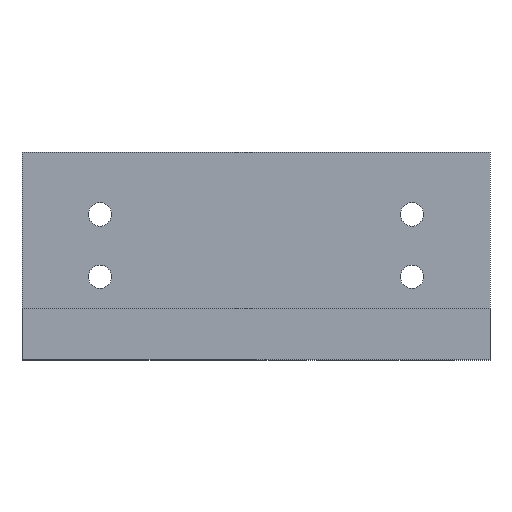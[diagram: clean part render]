
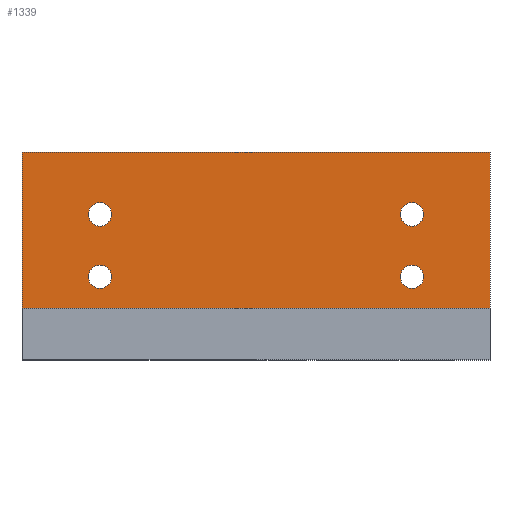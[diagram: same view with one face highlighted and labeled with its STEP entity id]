
A CAD part, front view. The second image highlights one B-rep face of the part: STEP entity #1339.
In plain terms, the highlighted planar face has unit normal (0, -1, 0).
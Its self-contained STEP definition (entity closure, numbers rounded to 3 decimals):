
#32 = PLANE('',#33);
#33 = AXIS2_PLACEMENT_3D('',#34,#35,#36);
#34 = CARTESIAN_POINT('',(0.,103.,10.));
#35 = DIRECTION('',(1.,0.,0.));
#36 = DIRECTION('',(0.,0.,-1.));
#141 = VERTEX_POINT('',#142);
#142 = CARTESIAN_POINT('',(0.,12.,40.));
#156 = PLANE('',#157);
#157 = AXIS2_PLACEMENT_3D('',#158,#159,#160);
#158 = CARTESIAN_POINT('',(0.,22.,40.));
#159 = DIRECTION('',(0.,0.,-1.));
#160 = DIRECTION('',(1.,0.,0.));
#168 = EDGE_CURVE('',#141,#169,#171,.T.);
#169 = VERTEX_POINT('',#170);
#170 = CARTESIAN_POINT('',(0.,12.,10.));
#171 = SURFACE_CURVE('',#172,(#176,#183),.PCURVE_S1.);
#172 = LINE('',#173,#174);
#173 = CARTESIAN_POINT('',(0.,12.,40.));
#174 = VECTOR('',#175,1.);
#175 = DIRECTION('',(0.,0.,-1.));
#176 = PCURVE('',#32,#177);
#177 = DEFINITIONAL_REPRESENTATION('',(#178),#182);
#178 = LINE('',#179,#180);
#179 = CARTESIAN_POINT('',(-30.,-91.));
#180 = VECTOR('',#181,1.);
#181 = DIRECTION('',(1.,0.));
#182 = ( GEOMETRIC_REPRESENTATION_CONTEXT(2) 
PARAMETRIC_REPRESENTATION_CONTEXT() REPRESENTATION_CONTEXT('2D SPACE',''
  ) );
#183 = PCURVE('',#184,#189);
#184 = PLANE('',#185);
#185 = AXIS2_PLACEMENT_3D('',#186,#187,#188);
#186 = CARTESIAN_POINT('',(0.,12.,40.));
#187 = DIRECTION('',(0.,-1.,0.));
#188 = DIRECTION('',(0.,0.,-1.));
#189 = DEFINITIONAL_REPRESENTATION('',(#190),#194);
#190 = LINE('',#191,#192);
#191 = CARTESIAN_POINT('',(0.,0.));
#192 = VECTOR('',#193,1.);
#193 = DIRECTION('',(1.,0.));
#194 = ( GEOMETRIC_REPRESENTATION_CONTEXT(2) 
PARAMETRIC_REPRESENTATION_CONTEXT() REPRESENTATION_CONTEXT('2D SPACE',''
  ) );
#212 = PLANE('',#213);
#213 = AXIS2_PLACEMENT_3D('',#214,#215,#216);
#214 = CARTESIAN_POINT('',(0.,103.,10.));
#215 = DIRECTION('',(0.,0.,-1.));
#216 = DIRECTION('',(1.,0.,0.));
#342 = PLANE('',#343);
#343 = AXIS2_PLACEMENT_3D('',#344,#345,#346);
#344 = CARTESIAN_POINT('',(90.,103.,10.));
#345 = DIRECTION('',(1.,0.,0.));
#346 = DIRECTION('',(0.,0.,-1.));
#1186 = CYLINDRICAL_SURFACE('',#1187,2.25);
#1187 = AXIS2_PLACEMENT_3D('',#1188,#1189,#1190);
#1188 = CARTESIAN_POINT('',(15.,23.,28.));
#1189 = DIRECTION('',(0.,-1.,0.));
#1190 = DIRECTION('',(0.,0.,-1.));
#1217 = CYLINDRICAL_SURFACE('',#1218,2.25);
#1218 = AXIS2_PLACEMENT_3D('',#1219,#1220,#1221);
#1219 = CARTESIAN_POINT('',(15.,23.,16.));
#1220 = DIRECTION('',(0.,-1.,0.));
#1221 = DIRECTION('',(0.,0.,-1.));
#1248 = CYLINDRICAL_SURFACE('',#1249,2.25);
#1249 = AXIS2_PLACEMENT_3D('',#1250,#1251,#1252);
#1250 = CARTESIAN_POINT('',(75.,23.,28.));
#1251 = DIRECTION('',(0.,-1.,0.));
#1252 = DIRECTION('',(0.,0.,-1.));
#1279 = CYLINDRICAL_SURFACE('',#1280,2.25);
#1280 = AXIS2_PLACEMENT_3D('',#1281,#1282,#1283);
#1281 = CARTESIAN_POINT('',(75.,23.,16.));
#1282 = DIRECTION('',(0.,-1.,0.));
#1283 = DIRECTION('',(0.,0.,-1.));
#1297 = VERTEX_POINT('',#1298);
#1298 = CARTESIAN_POINT('',(90.,12.,40.));
#1319 = EDGE_CURVE('',#141,#1297,#1320,.T.);
#1320 = SURFACE_CURVE('',#1321,(#1325,#1332),.PCURVE_S1.);
#1321 = LINE('',#1322,#1323);
#1322 = CARTESIAN_POINT('',(0.,12.,40.));
#1323 = VECTOR('',#1324,1.);
#1324 = DIRECTION('',(1.,0.,0.));
#1325 = PCURVE('',#156,#1326);
#1326 = DEFINITIONAL_REPRESENTATION('',(#1327),#1331);
#1327 = LINE('',#1328,#1329);
#1328 = CARTESIAN_POINT('',(0.,10.));
#1329 = VECTOR('',#1330,1.);
#1330 = DIRECTION('',(1.,0.));
#1331 = ( GEOMETRIC_REPRESENTATION_CONTEXT(2) 
PARAMETRIC_REPRESENTATION_CONTEXT() REPRESENTATION_CONTEXT('2D SPACE',''
  ) );
#1332 = PCURVE('',#184,#1333);
#1333 = DEFINITIONAL_REPRESENTATION('',(#1334),#1338);
#1334 = LINE('',#1335,#1336);
#1335 = CARTESIAN_POINT('',(0.,0.));
#1336 = VECTOR('',#1337,1.);
#1337 = DIRECTION('',(0.,1.));
#1338 = ( GEOMETRIC_REPRESENTATION_CONTEXT(2) 
PARAMETRIC_REPRESENTATION_CONTEXT() REPRESENTATION_CONTEXT('2D SPACE',''
  ) );
#1339 = ADVANCED_FACE('',(#1340,#1388,#1414,#1440,#1466),#184,.T.);
#1340 = FACE_BOUND('',#1341,.T.);
#1341 = EDGE_LOOP('',(#1342,#1343,#1344,#1367));
#1342 = ORIENTED_EDGE('',*,*,#1319,.F.);
#1343 = ORIENTED_EDGE('',*,*,#168,.T.);
#1344 = ORIENTED_EDGE('',*,*,#1345,.T.);
#1345 = EDGE_CURVE('',#169,#1346,#1348,.T.);
#1346 = VERTEX_POINT('',#1347);
#1347 = CARTESIAN_POINT('',(90.,12.,10.));
#1348 = SURFACE_CURVE('',#1349,(#1353,#1360),.PCURVE_S1.);
#1349 = LINE('',#1350,#1351);
#1350 = CARTESIAN_POINT('',(0.,12.,10.));
#1351 = VECTOR('',#1352,1.);
#1352 = DIRECTION('',(1.,0.,0.));
#1353 = PCURVE('',#184,#1354);
#1354 = DEFINITIONAL_REPRESENTATION('',(#1355),#1359);
#1355 = LINE('',#1356,#1357);
#1356 = CARTESIAN_POINT('',(30.,0.));
#1357 = VECTOR('',#1358,1.);
#1358 = DIRECTION('',(0.,1.));
#1359 = ( GEOMETRIC_REPRESENTATION_CONTEXT(2) 
PARAMETRIC_REPRESENTATION_CONTEXT() REPRESENTATION_CONTEXT('2D SPACE',''
  ) );
#1360 = PCURVE('',#212,#1361);
#1361 = DEFINITIONAL_REPRESENTATION('',(#1362),#1366);
#1362 = LINE('',#1363,#1364);
#1363 = CARTESIAN_POINT('',(0.,91.));
#1364 = VECTOR('',#1365,1.);
#1365 = DIRECTION('',(1.,0.));
#1366 = ( GEOMETRIC_REPRESENTATION_CONTEXT(2) 
PARAMETRIC_REPRESENTATION_CONTEXT() REPRESENTATION_CONTEXT('2D SPACE',''
  ) );
#1367 = ORIENTED_EDGE('',*,*,#1368,.F.);
#1368 = EDGE_CURVE('',#1297,#1346,#1369,.T.);
#1369 = SURFACE_CURVE('',#1370,(#1374,#1381),.PCURVE_S1.);
#1370 = LINE('',#1371,#1372);
#1371 = CARTESIAN_POINT('',(90.,12.,40.));
#1372 = VECTOR('',#1373,1.);
#1373 = DIRECTION('',(0.,0.,-1.));
#1374 = PCURVE('',#184,#1375);
#1375 = DEFINITIONAL_REPRESENTATION('',(#1376),#1380);
#1376 = LINE('',#1377,#1378);
#1377 = CARTESIAN_POINT('',(0.,90.));
#1378 = VECTOR('',#1379,1.);
#1379 = DIRECTION('',(1.,0.));
#1380 = ( GEOMETRIC_REPRESENTATION_CONTEXT(2) 
PARAMETRIC_REPRESENTATION_CONTEXT() REPRESENTATION_CONTEXT('2D SPACE',''
  ) );
#1381 = PCURVE('',#342,#1382);
#1382 = DEFINITIONAL_REPRESENTATION('',(#1383),#1387);
#1383 = LINE('',#1384,#1385);
#1384 = CARTESIAN_POINT('',(-30.,-91.));
#1385 = VECTOR('',#1386,1.);
#1386 = DIRECTION('',(1.,0.));
#1387 = ( GEOMETRIC_REPRESENTATION_CONTEXT(2) 
PARAMETRIC_REPRESENTATION_CONTEXT() REPRESENTATION_CONTEXT('2D SPACE',''
  ) );
#1388 = FACE_BOUND('',#1389,.T.);
#1389 = EDGE_LOOP('',(#1390));
#1390 = ORIENTED_EDGE('',*,*,#1391,.F.);
#1391 = EDGE_CURVE('',#1392,#1392,#1394,.T.);
#1392 = VERTEX_POINT('',#1393);
#1393 = CARTESIAN_POINT('',(15.,12.,25.75));
#1394 = SURFACE_CURVE('',#1395,(#1400,#1407),.PCURVE_S1.);
#1395 = CIRCLE('',#1396,2.25);
#1396 = AXIS2_PLACEMENT_3D('',#1397,#1398,#1399);
#1397 = CARTESIAN_POINT('',(15.,12.,28.));
#1398 = DIRECTION('',(0.,-1.,0.));
#1399 = DIRECTION('',(0.,0.,-1.));
#1400 = PCURVE('',#184,#1401);
#1401 = DEFINITIONAL_REPRESENTATION('',(#1402),#1406);
#1402 = CIRCLE('',#1403,2.25);
#1403 = AXIS2_PLACEMENT_2D('',#1404,#1405);
#1404 = CARTESIAN_POINT('',(12.,15.));
#1405 = DIRECTION('',(1.,0.));
#1406 = ( GEOMETRIC_REPRESENTATION_CONTEXT(2) 
PARAMETRIC_REPRESENTATION_CONTEXT() REPRESENTATION_CONTEXT('2D SPACE',''
  ) );
#1407 = PCURVE('',#1186,#1408);
#1408 = DEFINITIONAL_REPRESENTATION('',(#1409),#1413);
#1409 = LINE('',#1410,#1411);
#1410 = CARTESIAN_POINT('',(0.,11.));
#1411 = VECTOR('',#1412,1.);
#1412 = DIRECTION('',(1.,0.));
#1413 = ( GEOMETRIC_REPRESENTATION_CONTEXT(2) 
PARAMETRIC_REPRESENTATION_CONTEXT() REPRESENTATION_CONTEXT('2D SPACE',''
  ) );
#1414 = FACE_BOUND('',#1415,.T.);
#1415 = EDGE_LOOP('',(#1416));
#1416 = ORIENTED_EDGE('',*,*,#1417,.F.);
#1417 = EDGE_CURVE('',#1418,#1418,#1420,.T.);
#1418 = VERTEX_POINT('',#1419);
#1419 = CARTESIAN_POINT('',(15.,12.,13.75));
#1420 = SURFACE_CURVE('',#1421,(#1426,#1433),.PCURVE_S1.);
#1421 = CIRCLE('',#1422,2.25);
#1422 = AXIS2_PLACEMENT_3D('',#1423,#1424,#1425);
#1423 = CARTESIAN_POINT('',(15.,12.,16.));
#1424 = DIRECTION('',(0.,-1.,0.));
#1425 = DIRECTION('',(0.,0.,-1.));
#1426 = PCURVE('',#184,#1427);
#1427 = DEFINITIONAL_REPRESENTATION('',(#1428),#1432);
#1428 = CIRCLE('',#1429,2.25);
#1429 = AXIS2_PLACEMENT_2D('',#1430,#1431);
#1430 = CARTESIAN_POINT('',(24.,15.));
#1431 = DIRECTION('',(1.,0.));
#1432 = ( GEOMETRIC_REPRESENTATION_CONTEXT(2) 
PARAMETRIC_REPRESENTATION_CONTEXT() REPRESENTATION_CONTEXT('2D SPACE',''
  ) );
#1433 = PCURVE('',#1217,#1434);
#1434 = DEFINITIONAL_REPRESENTATION('',(#1435),#1439);
#1435 = LINE('',#1436,#1437);
#1436 = CARTESIAN_POINT('',(0.,11.));
#1437 = VECTOR('',#1438,1.);
#1438 = DIRECTION('',(1.,0.));
#1439 = ( GEOMETRIC_REPRESENTATION_CONTEXT(2) 
PARAMETRIC_REPRESENTATION_CONTEXT() REPRESENTATION_CONTEXT('2D SPACE',''
  ) );
#1440 = FACE_BOUND('',#1441,.T.);
#1441 = EDGE_LOOP('',(#1442));
#1442 = ORIENTED_EDGE('',*,*,#1443,.F.);
#1443 = EDGE_CURVE('',#1444,#1444,#1446,.T.);
#1444 = VERTEX_POINT('',#1445);
#1445 = CARTESIAN_POINT('',(75.,12.,25.75));
#1446 = SURFACE_CURVE('',#1447,(#1452,#1459),.PCURVE_S1.);
#1447 = CIRCLE('',#1448,2.25);
#1448 = AXIS2_PLACEMENT_3D('',#1449,#1450,#1451);
#1449 = CARTESIAN_POINT('',(75.,12.,28.));
#1450 = DIRECTION('',(0.,-1.,0.));
#1451 = DIRECTION('',(0.,0.,-1.));
#1452 = PCURVE('',#184,#1453);
#1453 = DEFINITIONAL_REPRESENTATION('',(#1454),#1458);
#1454 = CIRCLE('',#1455,2.25);
#1455 = AXIS2_PLACEMENT_2D('',#1456,#1457);
#1456 = CARTESIAN_POINT('',(12.,75.));
#1457 = DIRECTION('',(1.,0.));
#1458 = ( GEOMETRIC_REPRESENTATION_CONTEXT(2) 
PARAMETRIC_REPRESENTATION_CONTEXT() REPRESENTATION_CONTEXT('2D SPACE',''
  ) );
#1459 = PCURVE('',#1248,#1460);
#1460 = DEFINITIONAL_REPRESENTATION('',(#1461),#1465);
#1461 = LINE('',#1462,#1463);
#1462 = CARTESIAN_POINT('',(0.,11.));
#1463 = VECTOR('',#1464,1.);
#1464 = DIRECTION('',(1.,0.));
#1465 = ( GEOMETRIC_REPRESENTATION_CONTEXT(2) 
PARAMETRIC_REPRESENTATION_CONTEXT() REPRESENTATION_CONTEXT('2D SPACE',''
  ) );
#1466 = FACE_BOUND('',#1467,.T.);
#1467 = EDGE_LOOP('',(#1468));
#1468 = ORIENTED_EDGE('',*,*,#1469,.F.);
#1469 = EDGE_CURVE('',#1470,#1470,#1472,.T.);
#1470 = VERTEX_POINT('',#1471);
#1471 = CARTESIAN_POINT('',(75.,12.,13.75));
#1472 = SURFACE_CURVE('',#1473,(#1478,#1485),.PCURVE_S1.);
#1473 = CIRCLE('',#1474,2.25);
#1474 = AXIS2_PLACEMENT_3D('',#1475,#1476,#1477);
#1475 = CARTESIAN_POINT('',(75.,12.,16.));
#1476 = DIRECTION('',(0.,-1.,0.));
#1477 = DIRECTION('',(0.,0.,-1.));
#1478 = PCURVE('',#184,#1479);
#1479 = DEFINITIONAL_REPRESENTATION('',(#1480),#1484);
#1480 = CIRCLE('',#1481,2.25);
#1481 = AXIS2_PLACEMENT_2D('',#1482,#1483);
#1482 = CARTESIAN_POINT('',(24.,75.));
#1483 = DIRECTION('',(1.,0.));
#1484 = ( GEOMETRIC_REPRESENTATION_CONTEXT(2) 
PARAMETRIC_REPRESENTATION_CONTEXT() REPRESENTATION_CONTEXT('2D SPACE',''
  ) );
#1485 = PCURVE('',#1279,#1486);
#1486 = DEFINITIONAL_REPRESENTATION('',(#1487),#1491);
#1487 = LINE('',#1488,#1489);
#1488 = CARTESIAN_POINT('',(0.,11.));
#1489 = VECTOR('',#1490,1.);
#1490 = DIRECTION('',(1.,0.));
#1491 = ( GEOMETRIC_REPRESENTATION_CONTEXT(2) 
PARAMETRIC_REPRESENTATION_CONTEXT() REPRESENTATION_CONTEXT('2D SPACE',''
  ) );
